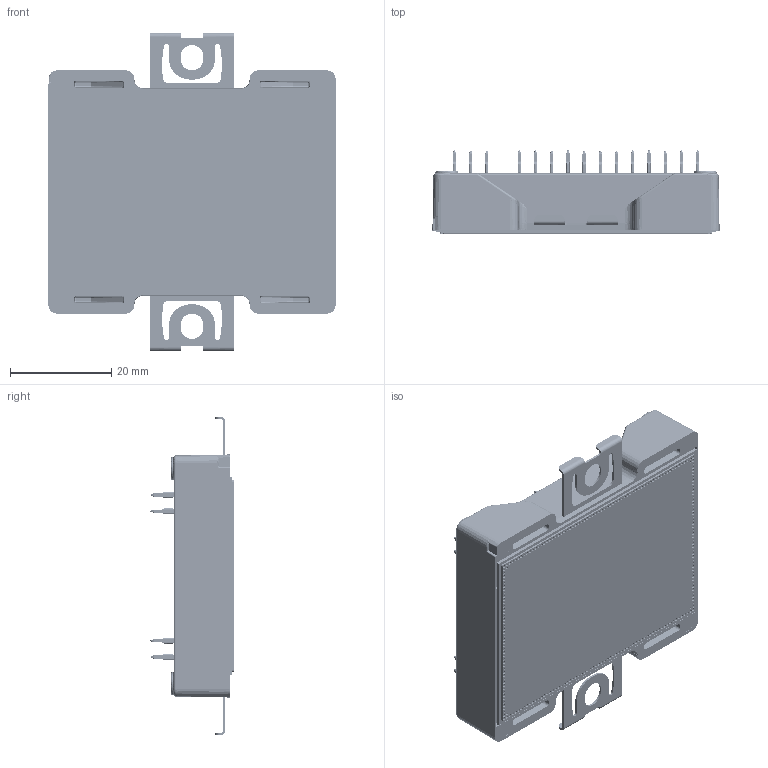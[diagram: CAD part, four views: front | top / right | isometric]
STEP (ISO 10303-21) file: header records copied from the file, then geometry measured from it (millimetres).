
FILE_DESCRIPTION (( 'STEP AP214' ), '1' );
FILE_NAME ('CBB011M12GM4T (2026-06-04).STEP', '2026-06-04T19:27:40', ( '' ), ( '' ), 'SwSTEP 2.0', 'SolidWorks 2025', '' );
FILE_SCHEMA (( 'AUTOMOTIVE_DESIGN' ));
Length unit declared in the file: millimetre
Products named in the file (1): CBB011M12GM4T (2026-06-04)
Bounding box: 56.7 x 16.4 x 62.8 mm (x, y, z)
Volume: 23611.4 mm3; surface area: 17974.4 mm2
Topology: 35 solids, 37 shells, 5443 faces, 13420 edges, 8374 vertices
Faces by surface type: cylinder 1741, plane 1526, bspline 1112, cone 1064
Entity records: 180158 total; most frequent: CARTESIAN_POINT 59443, ORIENTED_EDGE 26840, DIRECTION 23101, EDGE_CURVE 13420, AXIS2_PLACEMENT_3D 8886, VERTEX_POINT 8374, EDGE_LOOP 6106, ADVANCED_FACE 5443
